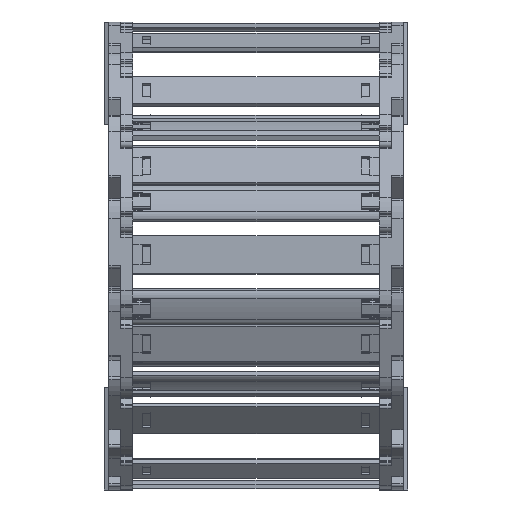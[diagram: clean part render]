
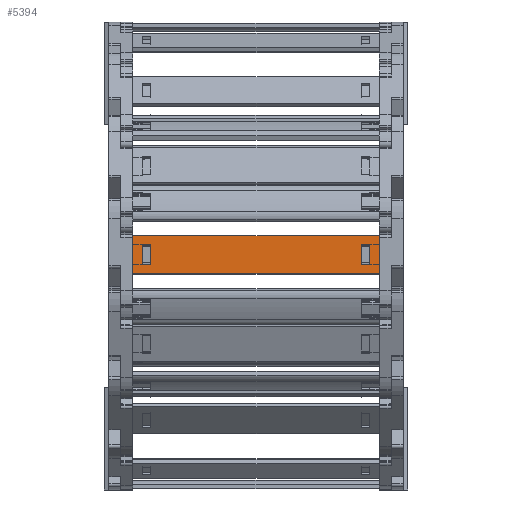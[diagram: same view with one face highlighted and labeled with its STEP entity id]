
A CAD part, left-side view. The second image highlights one B-rep face of the part: STEP entity #5394.
In plain terms, the highlighted planar face has unit normal (-1, 0, 0.007) as drawn and (0, 1, 0) by its records, which use the part's own axes.
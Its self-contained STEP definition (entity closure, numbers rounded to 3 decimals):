
#4814=DIRECTION('',(0.,0.,1.));
#4815=VECTOR('',#4814,15.8);
#4816=CARTESIAN_POINT('',(88.74,1.5,-7.9));
#4817=LINE('',#4816,#4815);
#4818=DIRECTION('',(-1.,0.,0.));
#4819=VECTOR('',#4818,103.5);
#4820=CARTESIAN_POINT('',(88.74,1.5,7.9));
#4821=LINE('',#4820,#4819);
#4822=DIRECTION('',(0.,0.,-1.));
#4823=VECTOR('',#4822,15.8);
#4824=CARTESIAN_POINT('',(-14.76,1.5,7.9));
#4825=LINE('',#4824,#4823);
#4826=DIRECTION('',(1.,0.,0.));
#4827=VECTOR('',#4826,3.648);
#4828=CARTESIAN_POINT('',(81.122,1.5,4.075));
#4829=LINE('',#4828,#4827);
#4830=DIRECTION('',(0.,0.,-1.));
#4831=VECTOR('',#4830,8.15);
#4832=CARTESIAN_POINT('',(84.77,1.5,4.075));
#4833=LINE('',#4832,#4831);
#4834=DIRECTION('',(-1.,0.,0.));
#4835=VECTOR('',#4834,3.648);
#4836=CARTESIAN_POINT('',(84.77,1.5,-4.075));
#4837=LINE('',#4836,#4835);
#4838=DIRECTION('',(0.,0.,-1.));
#4839=VECTOR('',#4838,8.15);
#4840=CARTESIAN_POINT('',(-7.142,1.5,4.075));
#4841=LINE('',#4840,#4839);
#4842=DIRECTION('',(-1.,0.,0.));
#4843=VECTOR('',#4842,3.648);
#4844=CARTESIAN_POINT('',(-7.142,1.5,-4.075));
#4845=LINE('',#4844,#4843);
#4846=DIRECTION('',(0.,0.,1.));
#4847=VECTOR('',#4846,8.15);
#4848=CARTESIAN_POINT('',(-10.79,1.5,-4.075));
#4849=LINE('',#4848,#4847);
#4850=DIRECTION('',(1.,0.,0.));
#4851=VECTOR('',#4850,3.648);
#4852=CARTESIAN_POINT('',(-10.79,1.5,4.075));
#4853=LINE('',#4852,#4851);
#4858=DIRECTION('',(-1.,0.,0.));
#4859=VECTOR('',#4858,103.5);
#4860=CARTESIAN_POINT('',(88.74,1.5,-7.9));
#4861=LINE('',#4860,#4859);
#4979=DIRECTION('',(0.,0.,-1.));
#4980=VECTOR('',#4979,8.15);
#4981=CARTESIAN_POINT('',(81.122,1.5,4.075));
#4982=LINE('',#4981,#4980);
#5164=CARTESIAN_POINT('',(84.77,1.5,4.075));
#5165=VERTEX_POINT('',#5164);
#5166=CARTESIAN_POINT('',(81.122,1.5,4.075));
#5167=VERTEX_POINT('',#5166);
#5208=CARTESIAN_POINT('',(81.122,1.5,-4.075));
#5209=VERTEX_POINT('',#5208);
#5210=CARTESIAN_POINT('',(84.77,1.5,-4.075));
#5211=VERTEX_POINT('',#5210);
#5212=CARTESIAN_POINT('',(88.74,1.5,7.9));
#5214=VERTEX_POINT('',#5212);
#5216=CARTESIAN_POINT('',(88.74,1.5,-7.9));
#5217=VERTEX_POINT('',#5216);
#5240=CARTESIAN_POINT('',(-7.142,1.5,4.075));
#5241=CARTESIAN_POINT('',(-7.142,1.5,-4.075));
#5242=VERTEX_POINT('',#5240);
#5243=VERTEX_POINT('',#5241);
#5244=CARTESIAN_POINT('',(-10.79,1.5,-4.075));
#5245=VERTEX_POINT('',#5244);
#5246=CARTESIAN_POINT('',(-10.79,1.5,4.075));
#5247=VERTEX_POINT('',#5246);
#5248=CARTESIAN_POINT('',(-14.76,1.5,7.9));
#5249=VERTEX_POINT('',#5248);
#5252=CARTESIAN_POINT('',(-14.76,1.5,-7.9));
#5253=VERTEX_POINT('',#5252);
#5363=CARTESIAN_POINT('',(120.48,1.5,10.061));
#5364=DIRECTION('',(0.,-1.,0.));
#5365=DIRECTION('',(0.,0.,-1.));
#5366=AXIS2_PLACEMENT_3D('',#5363,#5364,#5365);
#5367=PLANE('',#5366);
#5368=ORIENTED_EDGE('',*,*,#5302,.T.);
#5369=ORIENTED_EDGE('',*,*,#5328,.T.);
#5370=ORIENTED_EDGE('',*,*,#5341,.T.);
#5372=ORIENTED_EDGE('',*,*,#5371,.F.);
#5373=EDGE_LOOP('',(#5368,#5369,#5370,#5372));
#5374=FACE_OUTER_BOUND('',#5373,.F.);
#5376=ORIENTED_EDGE('',*,*,#5375,.F.);
#5377=ORIENTED_EDGE('',*,*,#5265,.T.);
#5379=ORIENTED_EDGE('',*,*,#5378,.T.);
#5381=ORIENTED_EDGE('',*,*,#5380,.T.);
#5382=EDGE_LOOP('',(#5376,#5377,#5379,#5381));
#5383=FACE_BOUND('',#5382,.F.);
#5385=ORIENTED_EDGE('',*,*,#5384,.T.);
#5387=ORIENTED_EDGE('',*,*,#5386,.T.);
#5389=ORIENTED_EDGE('',*,*,#5388,.T.);
#5391=ORIENTED_EDGE('',*,*,#5390,.T.);
#5392=EDGE_LOOP('',(#5385,#5387,#5389,#5391));
#5393=FACE_BOUND('',#5392,.F.);
#5394=ADVANCED_FACE('',(#5374,#5383,#5393),#5367,.F.);
#5265=EDGE_CURVE('',#5167,#5165,#4829,.T.);
#5302=EDGE_CURVE('',#5217,#5214,#4817,.T.);
#5328=EDGE_CURVE('',#5214,#5249,#4821,.T.);
#5341=EDGE_CURVE('',#5249,#5253,#4825,.T.);
#5371=EDGE_CURVE('',#5217,#5253,#4861,.T.);
#5375=EDGE_CURVE('',#5167,#5209,#4982,.T.);
#5378=EDGE_CURVE('',#5165,#5211,#4833,.T.);
#5380=EDGE_CURVE('',#5211,#5209,#4837,.T.);
#5384=EDGE_CURVE('',#5242,#5243,#4841,.T.);
#5386=EDGE_CURVE('',#5243,#5245,#4845,.T.);
#5388=EDGE_CURVE('',#5245,#5247,#4849,.T.);
#5390=EDGE_CURVE('',#5247,#5242,#4853,.T.);
